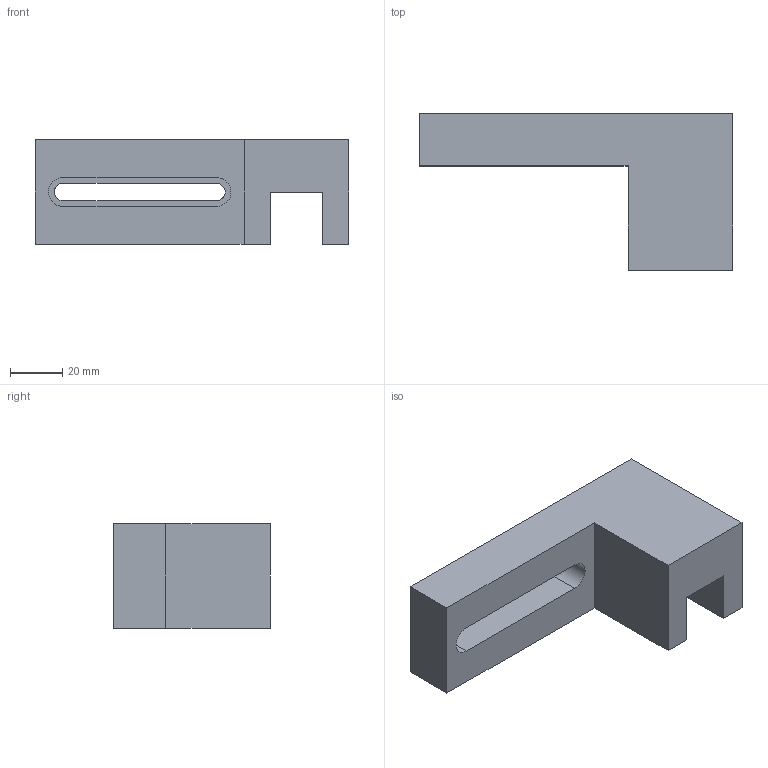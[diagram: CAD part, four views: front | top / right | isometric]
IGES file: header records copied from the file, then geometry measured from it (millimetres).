
Global section: file name: 固定件6; native system: Autodesk Inventor 2025; preprocessor: unknown; author: 97163; date: 20260318.135214; units: millimetre
Bounding box: 120.1 x 60 x 40 mm (x, y, z)
Volume: 122678.6 mm3; surface area: 26499.9 mm2
Topology: 1 solids, 1 shells, 27 faces, 72 edges, 50 vertices
Faces by surface type: bspline 27
